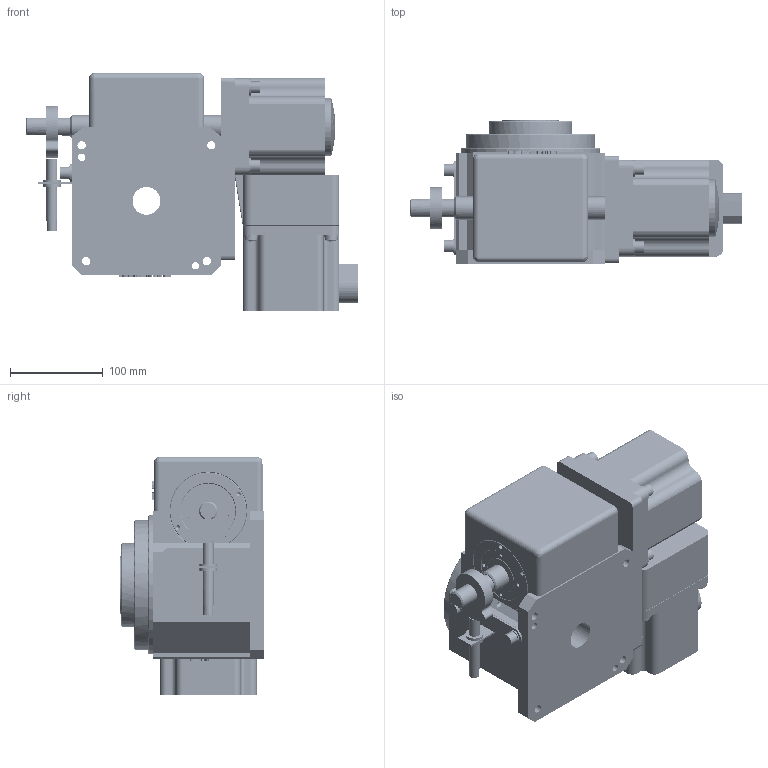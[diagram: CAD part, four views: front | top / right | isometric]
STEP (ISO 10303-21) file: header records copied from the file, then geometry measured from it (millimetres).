
FILE_DESCRIPTION (( 'STEP AP214' ), '1' );
FILE_NAME ('ER-RU80DT英锐凸轮分割器定盘壳体法兰面销孔3D水平直联式右侧ZDWS(电话15062628977)AA.STEP', '2022-06-21T07:33:22', ( '微软用户' ), ( '微软中国' ), 'SwSTEP 2.0', 'SolidWorks 2017', '' );
FILE_SCHEMA (( 'AUTOMOTIVE_DESIGN' ));
Length unit declared in the file: millimetre
Products named in the file (1): ER-RU80DT英锐凸轮分割器定盘壳体法兰面销孔3D水平直联式右侧ZDWS(电话15062628977)AA
Bounding box: 358.25 x 155 x 256.75 mm (x, y, z)
Volume: 6680019.4 mm3; surface area: 405215.7 mm2
Topology: 2 solids, 10 shells, 2108 faces, 5487 edges, 3550 vertices
Faces by surface type: cylinder 943, plane 612, bspline 368, cone 185
Entity records: 181876 total; most frequent: CARTESIAN_POINT 115981, ORIENTED_EDGE 10850, DIRECTION 6716, EDGE_CURVE 5425, VERTEX_POINT 3550, LINE 2404, VECTOR 2404, EDGE_LOOP 2349
